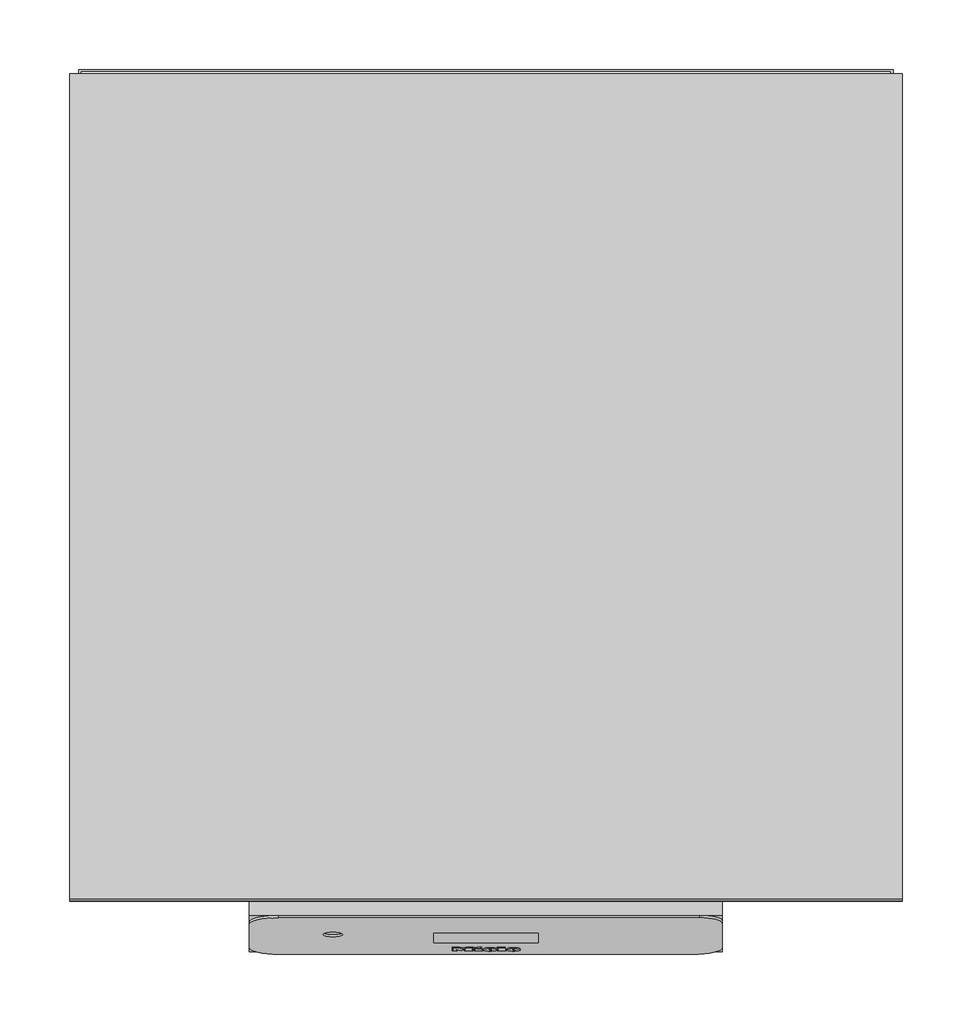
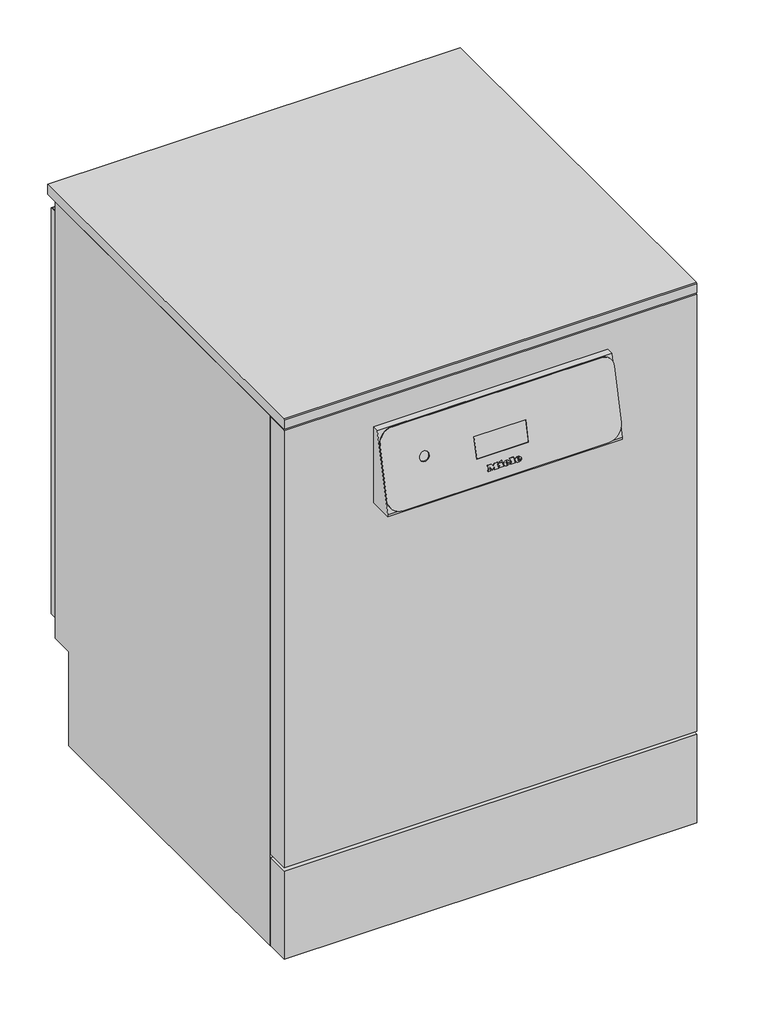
# Not in any storey: 1 proxy.
"""IFC4 building model written with IfcOpenShell, lengths in millimetres."""

from ifc_helpers import new_model, si_unit, origin, place, context, project, spatial, transform, mapped, element, save
from components import specialty_equipment_2b4fe27a

model = new_model("IFC4")

# Units and contexts
model_context = context("Model", 3, world=origin())
ifc_project = project(units=[si_unit("LENGTHUNIT", "METRE", prefix="MILLI")], contexts=[model_context])

# Site, building
site = spatial("IfcSite", under=ifc_project)
building = spatial("IfcBuilding", under=site)

# Proxy
placement = place(None, origin())
specialty_equipment_shape = specialty_equipment_2b4fe27a(model_context)
element("IfcBuildingElementProxy", 1, Name="12065590_NWE_PFD401_SST : 61040110_NWE_12065590_PFD401_SST", ObjectType="12065590_NWE_PFD401_SST : 61040110_NWE_12065590_PFD401_SST", at=placement, inside=building, context=model_context, shape_type="MappedRepresentation", body=[
    mapped(specialty_equipment_shape, transform((0.0, 0.0, 0.0), x_axis=(1.0, 0.0, 0.0), y_axis=(0.0, 1.0, 0.0), z_axis=(0.0, 0.0, 1.0))),
])

save(model, "model.ifc")
